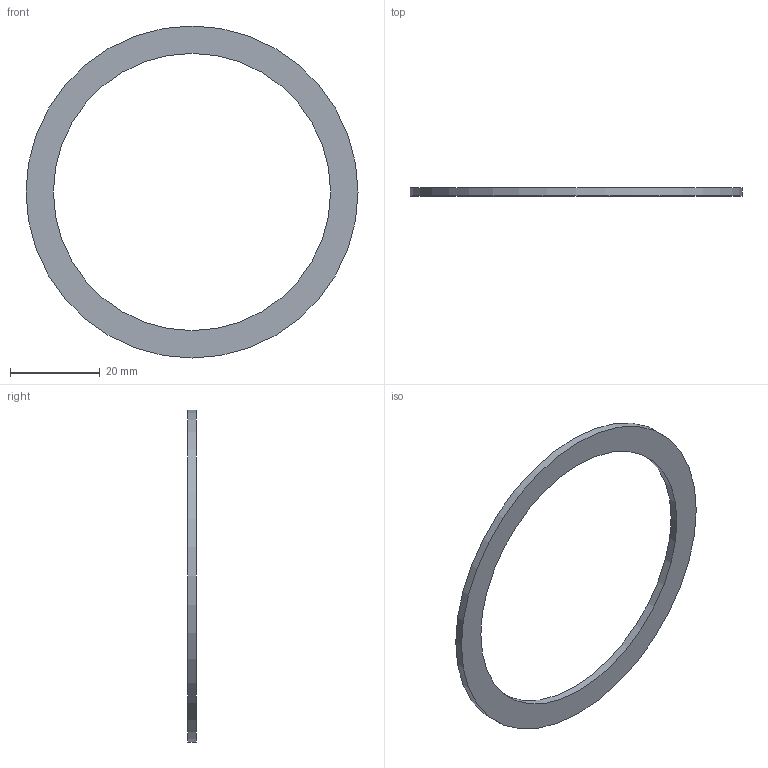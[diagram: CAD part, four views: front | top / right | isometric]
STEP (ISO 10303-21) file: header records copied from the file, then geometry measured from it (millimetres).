
FILE_DESCRIPTION(('FreeCAD Model'),'2;1');
FILE_NAME('Open CASCADE Shape Model','2026-11-20T08:25:32',('FreeCAD'),( 'FreeCAD'),'Open CASCADE STEP processor 7.8','FreeCAD','Unknown');
FILE_SCHEMA(('AUTOMOTIVE_DESIGN { 1 0 10303 214 1 1 1 1 }'));
Length unit declared in the file: millimetre
Products named in the file (1): Open CASCADE STEP translator 7.8 5
Bounding box: 74.17 x 1.8 x 74.17 mm (x, y, z)
Volume: 2357.9 mm3; surface area: 3389.4 mm2
Topology: 1 solids, 1 shells, 4 faces, 6 edges, 4 vertices
Faces by surface type: cylinder 2, plane 2
Full cylindrical faces by diameter (mm): 61.92 x1, 74.175 x1
Entity records: 108 total; most frequent: DIRECTION 20, CARTESIAN_POINT 15, ORIENTED_EDGE 12, AXIS2_PLACEMENT_3D 9, FACE_BOUND 6, EDGE_LOOP 6, EDGE_CURVE 6, ADVANCED_FACE 4
